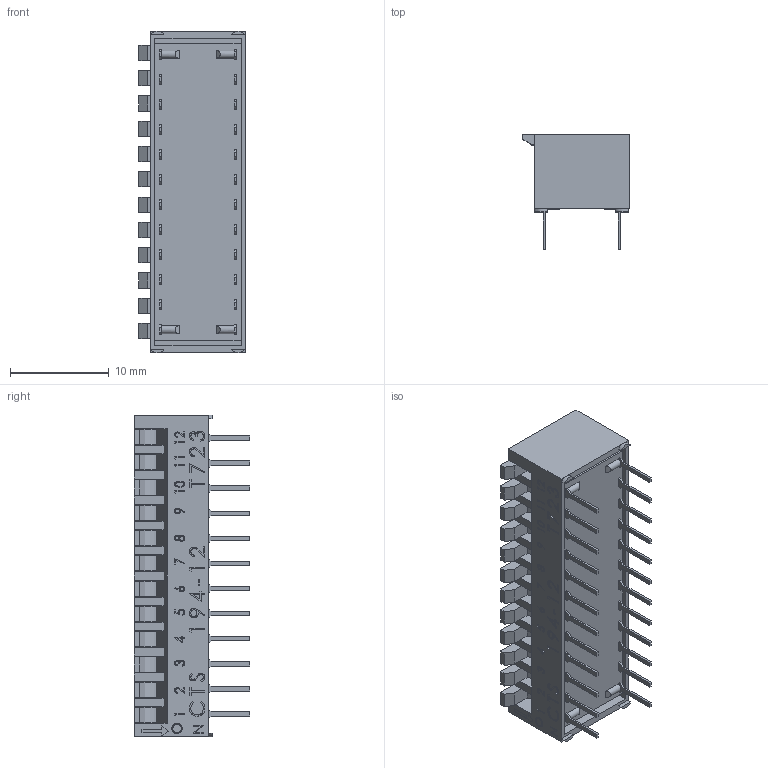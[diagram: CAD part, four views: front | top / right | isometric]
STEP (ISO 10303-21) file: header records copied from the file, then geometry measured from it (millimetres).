
FILE_DESCRIPTION (( 'STEP AP214' ), '1' );
FILE_NAME ('194-12MS.STEP', '2019-05-24T05:58:40', ( '' ), ( '' ), 'SwSTEP 2.0', 'SolidWorks 2019', '' );
FILE_SCHEMA (( 'AUTOMOTIVE_DESIGN' ));
Length unit declared in the file: millimetre
Products named in the file (4): 194-12MS; 193-56-001; 194-40-11A; 194-12 pole assembly
Assembly tree (14 placements, depth 2):
  194-12MS
    194-40-11A
    193-56-001  x12
    194-12 pole assembly
Bounding box: 10.79 x 11.71 x 32.66 mm (x, y, z)
Volume: 1641.1 mm3; surface area: 3626.4 mm2
Topology: 14 solids, 14 shells, 850 faces, 2336 edges, 1556 vertices
Faces by surface type: plane 637, bspline 145, cylinder 68
Entity records: 37402 total; most frequent: CARTESIAN_POINT 13274, ORIENTED_EDGE 4012, DIRECTION 2940, EDGE_CURVE 2006, VECTOR 1664, LINE 1664, VERTEX_POINT 1336, EDGE_LOOP 784
